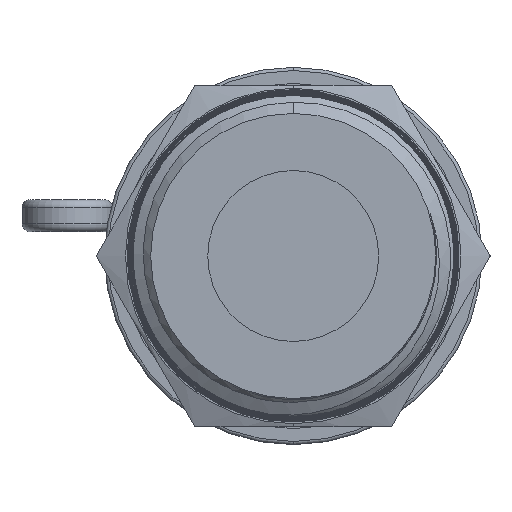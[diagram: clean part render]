
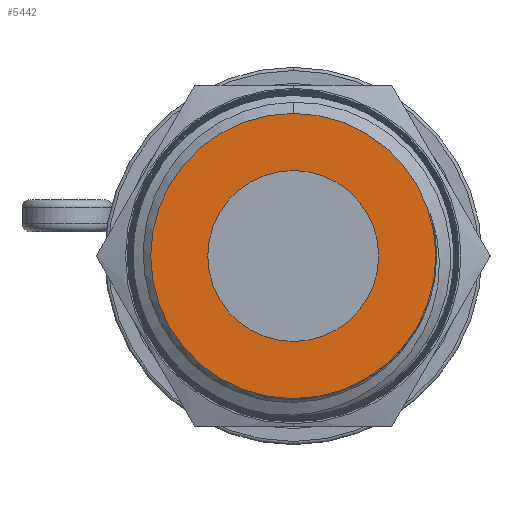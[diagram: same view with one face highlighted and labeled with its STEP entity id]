
A CAD part, front view. The second image highlights one B-rep face of the part: STEP entity #5442.
In plain terms, the highlighted planar face has unit normal (0, -1, 0).
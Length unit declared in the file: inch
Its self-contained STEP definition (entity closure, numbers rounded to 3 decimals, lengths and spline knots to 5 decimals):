
#360 = CARTESIAN_POINT ( 'NONE',  ( 0., 0., -0.265 ) ) ;
#445 = CARTESIAN_POINT ( 'NONE',  ( 0., 0., 0. ) ) ;
#1050 = CARTESIAN_POINT ( 'NONE',  ( 0., 0., 0.265 ) ) ;
#1194 = VERTEX_POINT ( 'NONE', #8278 ) ;
#1607 = CIRCLE ( 'NONE', #9108, 0.44209 ) ;
#1653 = DIRECTION ( 'NONE',  ( 0., 0., -1. ) ) ;
#1995 = FACE_OUTER_BOUND ( 'NONE', #3767, .T. ) ;
#2629 = CIRCLE ( 'NONE', #4267, 0.265 ) ;
#3612 = AXIS2_PLACEMENT_3D ( 'NONE', #12360, #5167, #13577 ) ;
#3767 = EDGE_LOOP ( 'NONE', ( #10000, #13818 ) ) ;
#3842 = DIRECTION ( 'NONE',  ( 0., 1., 0. ) ) ;
#4071 = AXIS2_PLACEMENT_3D ( 'NONE', #445, #8863, #1653 ) ;
#4104 = CARTESIAN_POINT ( 'NONE',  ( 0., 0., 0. ) ) ;
#4267 = AXIS2_PLACEMENT_3D ( 'NONE', #11052, #3842, #12278 ) ;
#4842 = EDGE_CURVE ( 'NONE', #8516, #9679, #7428, .T. ) ;
#5167 = DIRECTION ( 'NONE',  ( 0., 1., 0. ) ) ;
#5335 = DIRECTION ( 'NONE',  ( 0., 0., -1. ) ) ;
#5442 = ADVANCED_FACE ( 'NONE', ( #12901, #1995 ), #14154, .F. ) ;
#6775 = ORIENTED_EDGE ( 'NONE', *, *, #13625, .T. ) ;
#6938 = DIRECTION ( 'NONE',  ( 0., 1., 0. ) ) ;
#7020 = CARTESIAN_POINT ( 'NONE',  ( 0., 0., 0.44209 ) ) ;
#7428 = CIRCLE ( 'NONE', #3612, 0.265 ) ;
#7579 = CIRCLE ( 'NONE', #4071, 0.44209 ) ;
#8278 = CARTESIAN_POINT ( 'NONE',  ( 0., 0., -0.44209 ) ) ;
#8516 = VERTEX_POINT ( 'NONE', #1050 ) ;
#8863 = DIRECTION ( 'NONE',  ( 0., -1., 0. ) ) ;
#9024 = EDGE_LOOP ( 'NONE', ( #11574, #6775 ) ) ;
#9108 = AXIS2_PLACEMENT_3D ( 'NONE', #4104, #12537, #5335 ) ;
#9679 = VERTEX_POINT ( 'NONE', #360 ) ;
#10000 = ORIENTED_EDGE ( 'NONE', *, *, #13906, .T. ) ;
#10296 = EDGE_CURVE ( 'NONE', #1194, #12586, #7579, .T. ) ;
#11052 = CARTESIAN_POINT ( 'NONE',  ( 0., 0., 0. ) ) ;
#11574 = ORIENTED_EDGE ( 'NONE', *, *, #4842, .T. ) ;
#11713 = CARTESIAN_POINT ( 'NONE',  ( 0.265, 0., 0. ) ) ;
#12278 = DIRECTION ( 'NONE',  ( 0., 0., 1. ) ) ;
#12360 = CARTESIAN_POINT ( 'NONE',  ( 0., 0., 0. ) ) ;
#12537 = DIRECTION ( 'NONE',  ( 0., -1., 0. ) ) ;
#12586 = VERTEX_POINT ( 'NONE', #7020 ) ;
#12901 = FACE_BOUND ( 'NONE', #9024, .T. ) ;
#13333 = AXIS2_PLACEMENT_3D ( 'NONE', #11713, #6938, #15365 ) ;
#13577 = DIRECTION ( 'NONE',  ( 0., 0., 1. ) ) ;
#13625 = EDGE_CURVE ( 'NONE', #9679, #8516, #2629, .T. ) ;
#13818 = ORIENTED_EDGE ( 'NONE', *, *, #10296, .T. ) ;
#13906 = EDGE_CURVE ( 'NONE', #12586, #1194, #1607, .T. ) ;
#14154 = PLANE ( 'NONE',  #13333 ) ;
#15365 = DIRECTION ( 'NONE',  ( 0., 0., 1. ) ) ;
